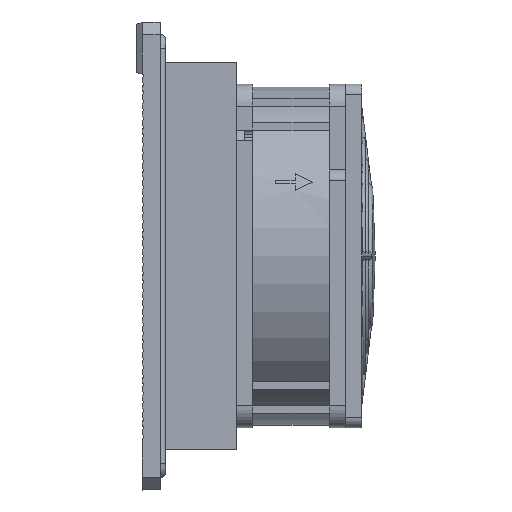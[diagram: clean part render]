
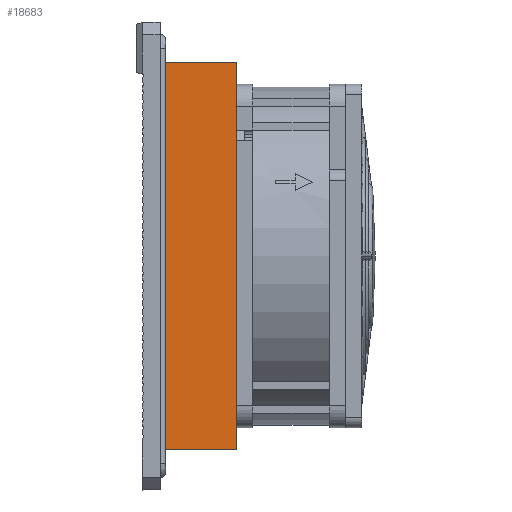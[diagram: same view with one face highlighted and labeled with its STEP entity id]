
A CAD part, left-side view. The second image highlights one B-rep face of the part: STEP entity #18683.
In plain terms, the highlighted planar face has unit normal (-1, 0, 0).
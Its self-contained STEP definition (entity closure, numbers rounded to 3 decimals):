
#11353 = DIRECTION ( 'NONE',  ( 0., -1., 0. ) ) ;
#11355 = VECTOR ( 'NONE', #11353, 1000. ) ;
#11356 = CARTESIAN_POINT ( 'NONE',  ( -45., 168.242, 45. ) ) ;
#11364 = LINE ( 'NONE', #11356, #11355 ) ;
#11367 = CARTESIAN_POINT ( 'NONE',  ( -45., 0., -45. ) ) ;
#11434 = PLANE ( 'NONE',  #11467 ) ;
#11436 = DIRECTION ( 'NONE',  ( -1., 0., 0. ) ) ;
#11437 = CARTESIAN_POINT ( 'NONE',  ( -45., 168.242, 45. ) ) ;
#11451 = CARTESIAN_POINT ( 'NONE',  ( -45., 0., 45. ) ) ;
#11467 = AXIS2_PLACEMENT_3D ( 'NONE', #11437, #11436, #11534 ) ;
#11480 = FACE_OUTER_BOUND ( 'NONE', #18602, .T. ) ;
#11494 = DIRECTION ( 'NONE',  ( 0., 1., 0. ) ) ;
#11495 = VECTOR ( 'NONE', #11494, 1000. ) ;
#11496 = CARTESIAN_POINT ( 'NONE',  ( -45., 168.242, -45. ) ) ;
#11504 = LINE ( 'NONE', #11496, #11495 ) ;
#11522 = DIRECTION ( 'NONE',  ( 0., 0., -1. ) ) ;
#11523 = VECTOR ( 'NONE', #11522, 1000. ) ;
#11525 = CARTESIAN_POINT ( 'NONE',  ( -45., 17.75, 52.5 ) ) ;
#11529 = CARTESIAN_POINT ( 'NONE',  ( -45., 17.75, -45. ) ) ;
#11534 = DIRECTION ( 'NONE',  ( 0., 0., 1. ) ) ;
#11535 = LINE ( 'NONE', #11525, #11523 ) ;
#11623 = DIRECTION ( 'NONE',  ( 0., 0., 1. ) ) ;
#11625 = VECTOR ( 'NONE', #11623, 1000. ) ;
#11626 = CARTESIAN_POINT ( 'NONE',  ( -45., 0., 52.5 ) ) ;
#11627 = LINE ( 'NONE', #11626, #11625 ) ;
#11631 = CARTESIAN_POINT ( 'NONE',  ( -45., 17.75, 45. ) ) ;
#18591 = VERTEX_POINT ( 'NONE', #11367 ) ;
#18595 = EDGE_CURVE ( 'NONE', #18768, #18700, #11364, .T. ) ;
#18599 = ORIENTED_EDGE ( 'NONE', *, *, #18595, .F. ) ;
#18602 = EDGE_LOOP ( 'NONE', ( #18685, #18599, #18702, #18761 ) ) ;
#18683 = ADVANCED_FACE ( 'NONE', ( #11480 ), #11434, .T. ) ;
#18685 = ORIENTED_EDGE ( 'NONE', *, *, #18766, .T. ) ;
#18687 = EDGE_CURVE ( 'NONE', #18768, #18690, #11535, .T. ) ;
#18690 = VERTEX_POINT ( 'NONE', #11529 ) ;
#18700 = VERTEX_POINT ( 'NONE', #11451 ) ;
#18702 = ORIENTED_EDGE ( 'NONE', *, *, #18687, .T. ) ;
#18704 = EDGE_CURVE ( 'NONE', #18591, #18690, #11504, .T. ) ;
#18761 = ORIENTED_EDGE ( 'NONE', *, *, #18704, .F. ) ;
#18766 = EDGE_CURVE ( 'NONE', #18591, #18700, #11627, .T. ) ;
#18768 = VERTEX_POINT ( 'NONE', #11631 ) ;
